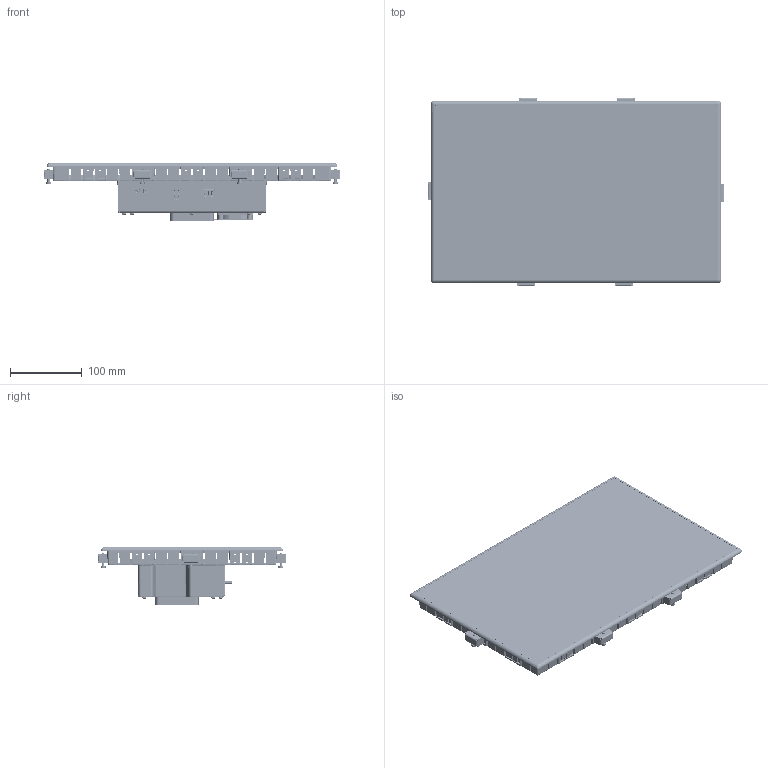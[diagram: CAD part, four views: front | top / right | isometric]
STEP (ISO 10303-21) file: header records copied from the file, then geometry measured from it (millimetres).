
FILE_DESCRIPTION(/* description */ (''),/* implementation_level */ '2;1');
FILE_NAME(/* name */ 'B-Primis ET-Pi Prime 15_.stp',/* time_stamp */ '2025-12-02T15:32:00+01:00',/* author */ ('Werres'),/* organization */ (''),/* preprocessor_version */ 'ST-DEVELOPER v20.1',/* originating_system */ 'Autodesk Inventor 2026',/* authorisation */ '');
FILE_SCHEMA (('AUTOMOTIVE_DESIGN { 1 0 10303 214 3 1 1 }'));
Products named in the file (1): B-Primis ET-Pi Prime 15__Vereinfacht
Bounding box: 412.98 x 262.01 x 80.8 mm (x, y, z)
Volume: 700632.4 mm3; surface area: 691277.7 mm2
Topology: 4 solids, 30 shells, 9880 faces, 28860 edges, 18657 vertices
Faces by surface type: plane 7108, cylinder 2354, cone 210, bspline 98, torus 55, sphere 55
Full cylindrical faces by diameter (mm): 0.5 x10, 0.6 x2, 0.65 x2, 1 x3, 1.8 x16, 2 x2, 2.2 x2, 2.3 x1, 3 x17, 3.3 x4, 3.4 x3, 3.5 x14, 3.7 x4, 4 x21, 4.3 x10, 4.9 x6, 5.5 x1, 6 x15, 6.5 x1, 7 x6, 8 x4, 15 x1, 47.5 x1
Entity records: 341084 total; most frequent: CARTESIAN_POINT 75601, ORIENTED_EDGE 57708, DIRECTION 52535, EDGE_CURVE 28854, LINE 22551, VECTOR 22551, VERTEX_POINT 18657, AXIS2_PLACEMENT_3D 14992
